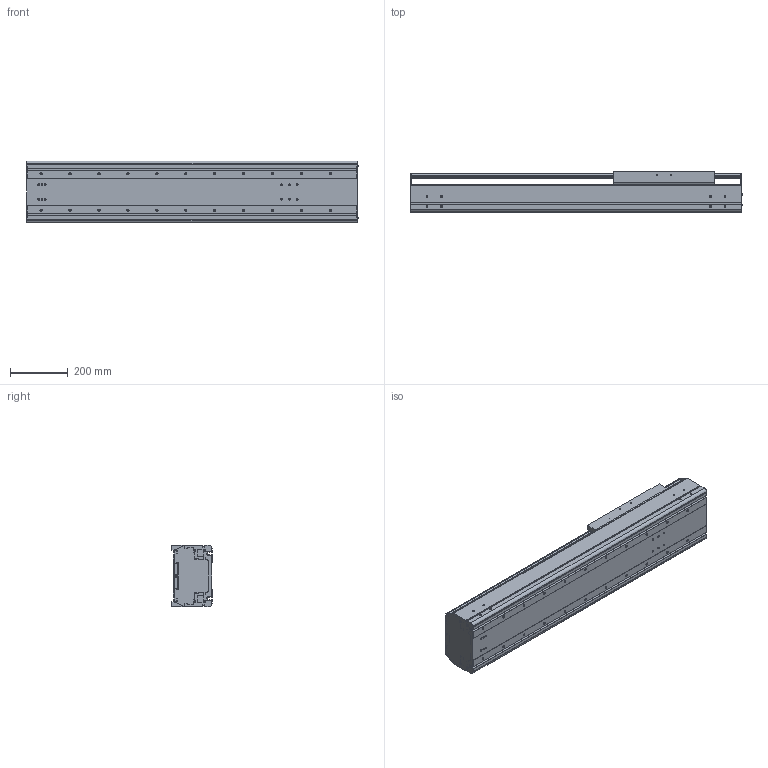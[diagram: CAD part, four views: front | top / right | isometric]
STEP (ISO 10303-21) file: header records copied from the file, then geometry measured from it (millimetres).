
FILE_DESCRIPTION((''),'2;1');
FILE_NAME('BE60G-ST-L_B-65_IGS_PRT','2017-06-18T',(' '),(''),'PRO/ENGINEER BY PARAMETRIC TECHNOLOGY CORPORATION, 2015030','PRO/ENGINEER BY PARAMETRIC TECHNOLOGY CORPORATION, 2015030','');
FILE_SCHEMA(('CONFIG_CONTROL_DESIGN'));
Length unit declared in the file: millimetre
Products named in the file (1): BE60G-ST-L_B-65_IGS_PRT
Bounding box: 1147.4 x 140 x 214 mm (x, y, z)
Volume: 9846185.9 mm3; surface area: 2568226.7 mm2
Topology: 2 solids, 130 shells, 1504 faces, 4174 edges, 2734 vertices
Faces by surface type: cylinder 752, plane 600, cone 104, sphere 24, torus 24
Entity records: 49697 total; most frequent: CARTESIAN_POINT 10847, DIRECTION 8244, ORIENTED_EDGE 7636, EDGE_CURVE 4070, AXIS2_PLACEMENT_3D 3065, VERTEX_POINT 2732, VECTOR 2114, LINE 2114
